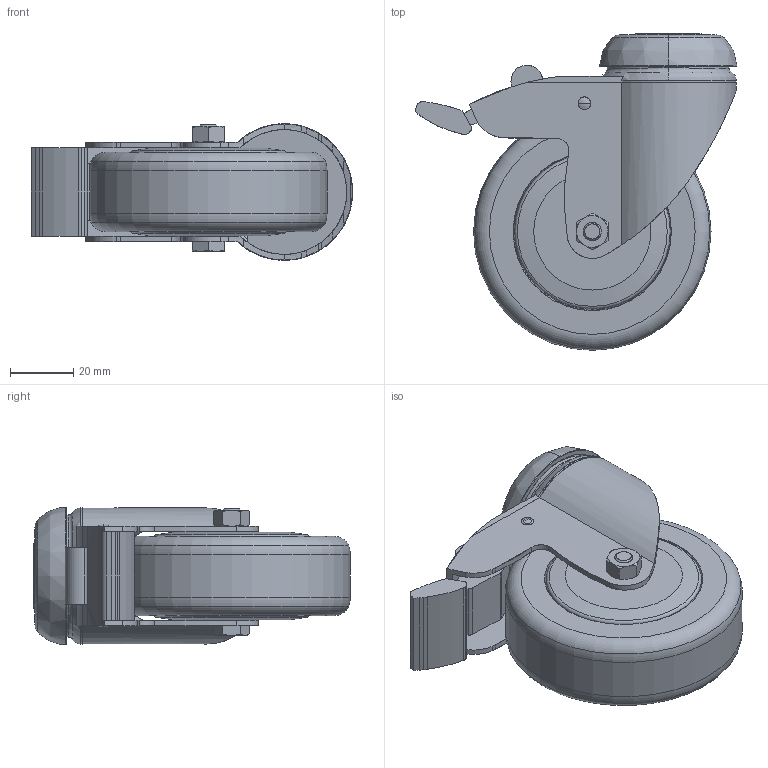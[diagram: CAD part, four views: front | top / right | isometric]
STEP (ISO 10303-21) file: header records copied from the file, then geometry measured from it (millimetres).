
FILE_DESCRIPTION(/* description */ ('INDUSTRIAL CASTOR WITH BRAKE Ø75 H=100'),/* implementation_level */ '2;1');
FILE_NAME(/* name */ '\\carryline.intra\privat\users\mathias\Desktop\Tillfälliga filer\100-1126.stp',/* time_stamp */ '2018-11-19T08:54:40+01:00',/* author */ ('MD'),/* organization */ ('WIBERGER'),/* preprocessor_version */ 'ST-DEVELOPER v17',/* originating_system */ 'Autodesk Inventor 2018',/* authorisation */ '');
FILE_SCHEMA (('AUTOMOTIVE_DESIGN { 1 0 10303 214 3 1 1 }'));
Length unit declared in the file: millimetre
Products named in the file (1): 100-1126
Bounding box: 101.6 x 100 x 43.31 mm (x, y, z)
Volume: 108860.9 mm3; surface area: 45964.3 mm2
Topology: 1 solids, 230 shells, 271 faces, 1268 edges, 1234 vertices
Faces by surface type: cylinder 99, plane 83, torus 49, cone 32, bspline 8
Full cylindrical faces by diameter (mm): 6 x2, 8.6 x2, 12 x1, 16 x2, 45.102 x2, 50 x2, 75 x1
Entity records: 23025 total; most frequent: CARTESIAN_POINT 12793, DIRECTION 1976, ORIENTED_EDGE 1378, EDGE_CURVE 1264, VERTEX_POINT 1234, AXIS2_PLACEMENT_3D 756, CIRCLE 476, LINE 464
